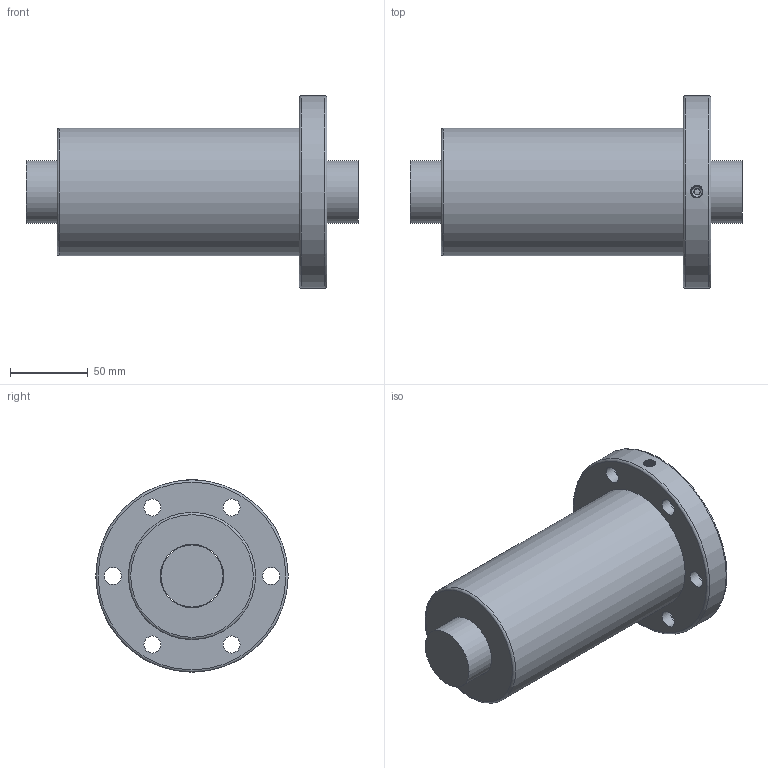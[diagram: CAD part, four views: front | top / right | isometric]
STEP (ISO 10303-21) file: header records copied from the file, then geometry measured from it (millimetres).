
FILE_DESCRIPTION(/* description */ ('Unknown','CAx-IF Rec.Pracs.---Representation and Presentation of Product Manufacturing Information (PMI)---4.0---2014-10-13','CAx-IF Rec.Pracs.---3D Tessellated Geometry---0.4---2014-09-14','2;1'),/* implementation_level */ '2;1');
FILE_NAME(/* name */ 'OFV04010-4.8',/* time_stamp */ '2020-12-08T11:55:14+08:00',/* author */ ('Unknown'),/* organization */ ('Unknown'),/* preprocessor_version */ 'ST-DEVELOPER v16.7',/* originating_system */ 'Solid Edge',/* authorisation */ 'Unknown');
FILE_SCHEMA (('AP242_MANAGED_MODEL_BASED_3D_ENGINEERING_MIM_LF { 1 0 10303 442 1 1 4 }'));
Length unit declared in the file: millimetre
Products named in the file (1): OFV04010-4.8
Bounding box: 214 x 124 x 124 mm (x, y, z)
Volume: 1059257.6 mm3; surface area: 124486.9 mm2
Topology: 2 solids, 2 shells, 38 faces, 76 edges, 49 vertices
Faces by surface type: cylinder 20, plane 12, torus 3, bspline 2, cone 1
Full cylindrical faces by diameter (mm): 4 x1, 6.917 x1, 11 x6, 17.5 x6, 40 x1, 41 x1, 82 x1, 124 x1
Entity records: 2798 total; most frequent: CARTESIAN_POINT 1996, DIRECTION 160, ORIENTED_EDGE 102, EDGE_LOOP 83, FACE_BOUND 83, AXIS2_PLACEMENT_3D 81, EDGE_CURVE 51, VERTEX_POINT 46
